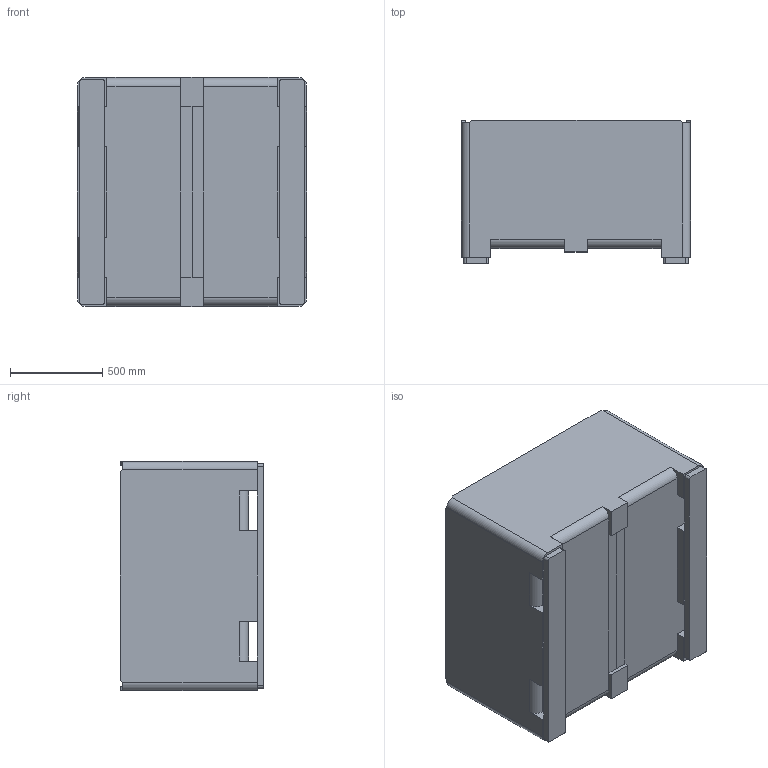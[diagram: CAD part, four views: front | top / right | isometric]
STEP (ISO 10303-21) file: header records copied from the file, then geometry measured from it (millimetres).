
FILE_DESCRIPTION (( 'STEP AP214' ), '1' );
FILE_NAME ('28FV Block Model.STEP', '2013-06-03T14:44:55', ( 'Bryant Conder' ), ( '' ), 'SwSTEP 2.0', 'SolidWorks 2013', '' );
FILE_SCHEMA (( 'AUTOMOTIVE_DESIGN' ));
Length unit declared in the file: inch
Products named in the file (1): 28FV Block Model
Bounding box: 1244.6 x 777.88 x 1244.6 mm (x, y, z)
Volume: 283750832.9 mm3; surface area: 9672595.7 mm2
Topology: 1 solids, 1 shells, 110 faces, 317 edges, 198 vertices
Faces by surface type: plane 78, cylinder 28, bspline 4
Entity records: 3977 total; most frequent: CARTESIAN_POINT 1074, ORIENTED_EDGE 626, DIRECTION 567, EDGE_CURVE 313, LINE 257, VECTOR 257, VERTEX_POINT 198, AXIS2_PLACEMENT_3D 155
